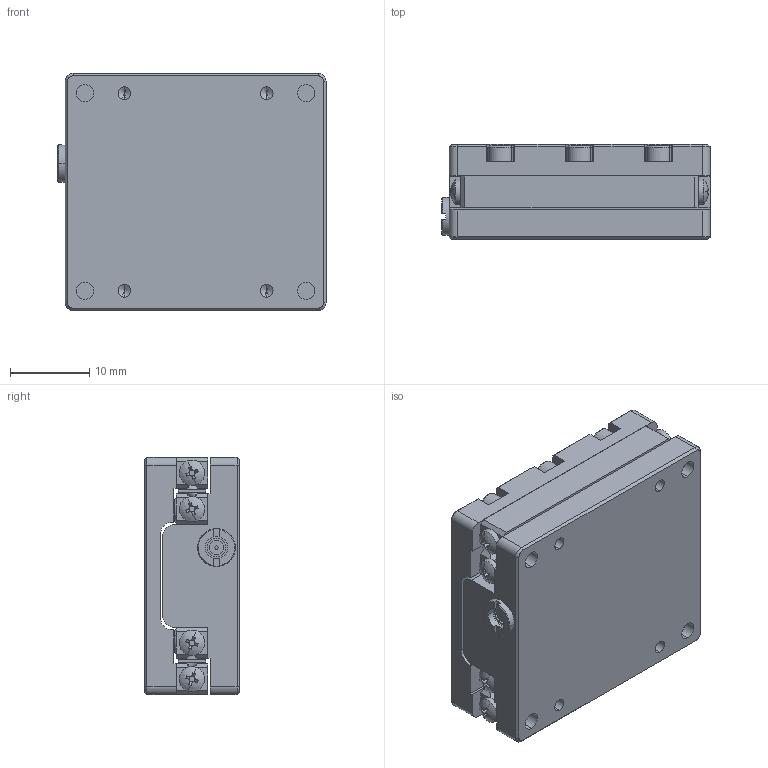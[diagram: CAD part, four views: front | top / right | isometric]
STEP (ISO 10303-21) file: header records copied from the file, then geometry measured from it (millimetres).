
FILE_DESCRIPTION (( 'STEP AP214' ), '1' );
FILE_NAME ('N56.10K-B1直线压电马达(简化版）.STEP', '2023-07-27T01:09:43', ( 'Sky123.Org' ), ( 'Sky123.Org' ), 'SwSTEP 2.0', 'SolidWorks 2016', '' );
FILE_SCHEMA (( 'AUTOMOTIVE_DESIGN' ));
Length unit declared in the file: millimetre
Products named in the file (1): N56.10K-B1直线压电马达(简化版）
Bounding box: 33.9 x 12 x 30 mm (x, y, z)
Volume: 8336.3 mm3; surface area: 10510.5 mm2
Topology: 43 solids, 43 shells, 1017 faces, 2503 edges, 1593 vertices
Faces by surface type: plane 533, cylinder 360, cone 84, torus 24, sphere 16
Entity records: 41601 total; most frequent: CARTESIAN_POINT 5441, DIRECTION 5336, ORIENTED_EDGE 4886, EDGE_CURVE 2443, AXIS2_PLACEMENT_3D 1978, VERTEX_POINT 1593, VECTOR 1380, LINE 1380
